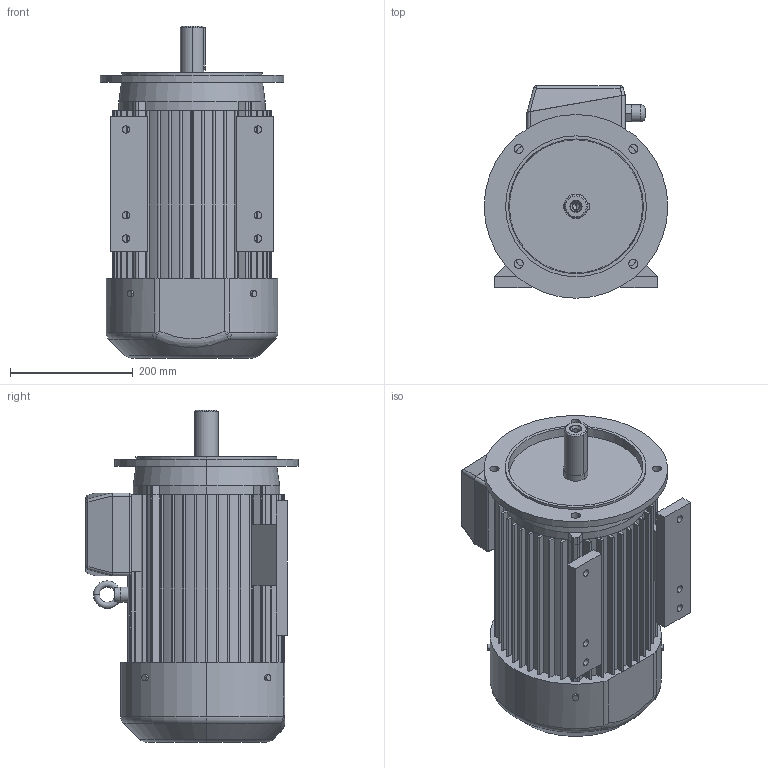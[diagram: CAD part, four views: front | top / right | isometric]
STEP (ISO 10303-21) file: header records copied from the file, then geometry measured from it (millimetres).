
FILE_DESCRIPTION (( 'STEP AP203' ), '1' );
FILE_NAME ('3SIEL132S;M.STEP', '2015-01-09T07:13:33', ( 'Indukta' ), ( 'Celma Indukta S.A.' ), 'SwSTEP 2.0', 'SolidWorks 2003064', '' );
FILE_SCHEMA (( 'CONFIG_CONTROL_DESIGN' ));
Length unit declared in the file: millimetre
Products named in the file (1): 3SIEL132S;M
Bounding box: 300 x 347 x 542 mm (x, y, z)
Volume: 25438657.8 mm3; surface area: 1113496.5 mm2
Topology: 16 solids, 16 shells, 426 faces, 1105 edges, 708 vertices
Faces by surface type: cylinder 194, plane 191, torus 16, cone 16, bspline 5, sphere 4
Entity records: 16821 total; most frequent: CARTESIAN_POINT 6081, DIRECTION 2316, ORIENTED_EDGE 2194, EDGE_CURVE 1097, AXIS2_PLACEMENT_3D 842, VERTEX_POINT 708, LINE 632, VECTOR 632
